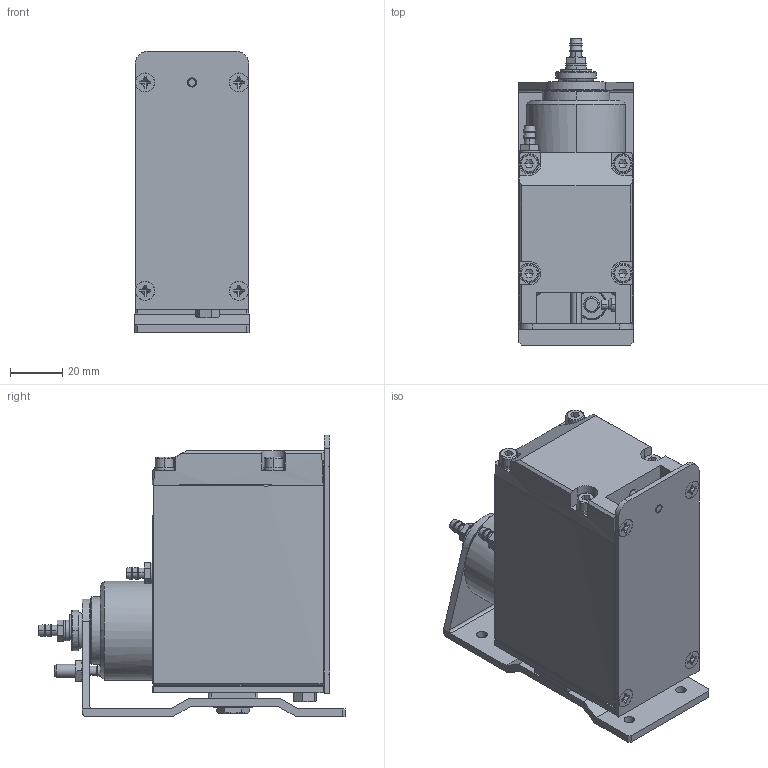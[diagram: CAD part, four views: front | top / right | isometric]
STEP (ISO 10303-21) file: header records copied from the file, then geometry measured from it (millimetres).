
FILE_DESCRIPTION (( 'STEP AP214' ), '1' );
FILE_NAME ('GT-NT20R.STEP', '2019-11-27T09:06:32', ( '微软用户' ), ( '微软中国' ), 'SwSTEP 2.0', 'SolidWorks 2016', '' );
FILE_SCHEMA (( 'AUTOMOTIVE_DESIGN' ));
Length unit declared in the file: millimetre
Products named in the file (1): GT-NT20R
Bounding box: 44 x 117.6 x 108.1 mm (x, y, z)
Surface area: 67522.3 mm2 (no closed solid volume)
Topology: 0 solids, 126 shells, 1229 faces, 3179 edges, 2142 vertices
Faces by surface type: plane 567, cylinder 359, bspline 187, cone 88, torus 28
Entity records: 59041 total; most frequent: CARTESIAN_POINT 23826, ORIENTED_EDGE 5819, DIRECTION 5151, EDGE_CURVE 3143, VERTEX_POINT 2142, AXIS2_PLACEMENT_3D 1929, EDGE_LOOP 1384, LINE 1293
